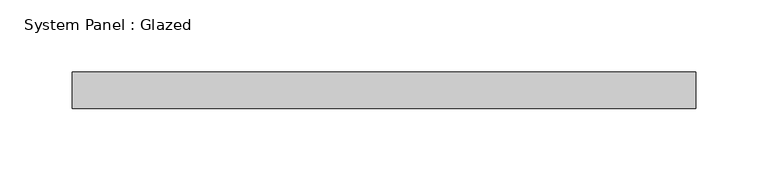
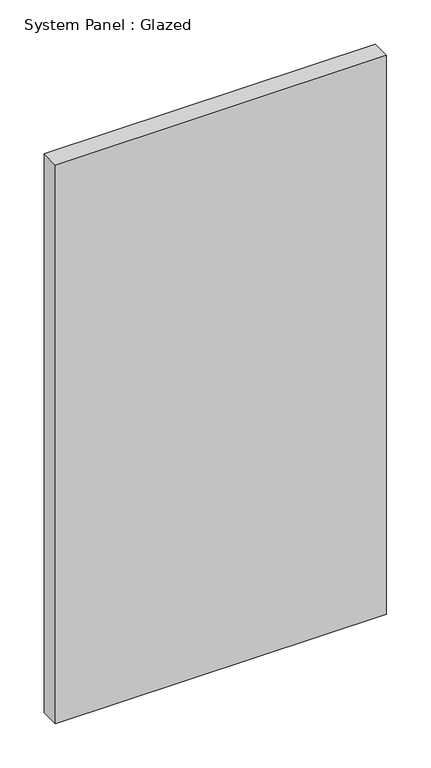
"""IFC4 building model written with IfcOpenShell, lengths in millimetres: plate geometry, System Panel : Glazed."""

from ifc_helpers import new_model, si_unit, origin, origin_with_axes, place, context, project, spatial, polyline, outline, extrude, source, transform, mapped, element, save


def system_panel_glazed_66b9dd55(model_context):
    return source(origin(), model_context, "Body", "SweptSolid", [
        extrude(outline(polyline([(215.9, 19.05), (-215.9, 19.05), (-215.9, 44.45), (215.9, 44.45), (215.9, 19.05)])), origin_with_axes(), (0.0, 0.0, 1.0), 770.6690025),
    ])


if __name__ == "__main__":
    model = new_model("IFC4")
    model_context = context("Model", 3, world=origin())
    ifc_project = project(units=[si_unit("LENGTHUNIT", "METRE", prefix="MILLI")], contexts=[model_context])
    site = spatial("IfcSite", under=ifc_project)
    building = spatial("IfcBuilding", under=site)
    placement = place(None, origin())
    system_panel_glazed_shape = system_panel_glazed_66b9dd55(model_context)
    element("IfcPlate", 1, ObjectType="System Panel : Glazed", at=placement, inside=building, context=model_context, shape_type="MappedRepresentation", body=[
        mapped(system_panel_glazed_shape, transform((0.0, 0.0, 0.0), x_axis=(1.0, 0.0, 0.0), y_axis=(0.0, 1.0, 0.0), z_axis=(0.0, 0.0, 1.0))),
    ])
    save(model, "model.ifc")
